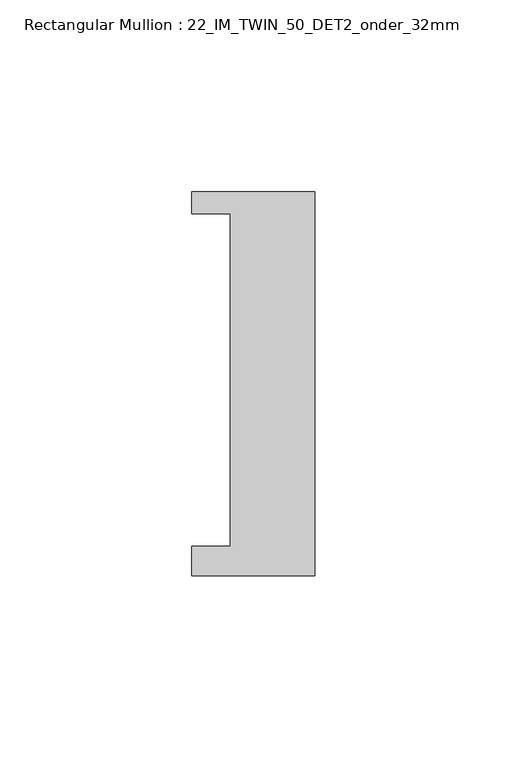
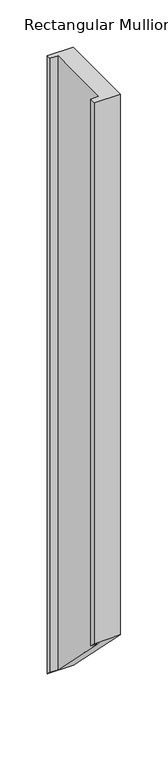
"""IFC4 building model written with IfcOpenShell, lengths in millimetres: member geometry, Rectangular Mullion : 22_IM_TWIN_50_DET2_onder_32mm."""

from ifc_helpers import new_model, si_unit, origin, place, context, project, spatial, faceted_brep, source, transform, mapped, element, save


def rectangular_mullion_22_im_twin_50_det2_onder_32mm_dabcd18b(model_context):
    return source(origin(), model_context, "Body", "Brep", [
        faceted_brep([(-32.0, 50.0, 0.0), (-32.0, 44.3, 0.0), (-22.0, 44.3, 0.0), (-22.0, -42.3, 0.0), (-32.0, -42.3, 0.0), (-32.0, -50.0, 0.0), (0.0, -50.0, 0.0), (0.0, 50.0, 0.0), (-32.0, 50.0, -799.9903134), (-32.0, 44.3, -794.2903134), (-22.0, 44.3, -794.2903134), (-22.0, -42.3, -707.6903134), (-32.0, -42.3, -707.6903134), (-32.0, -50.0, -699.9903134), (0.0, -50.0, -699.9903134), (0.0, 50.0, -799.9903134)], [[[0, 1, 2, 3, 4, 5, 6, 7]], [[1, 0, 8, 9]], [[2, 1, 9, 10]], [[3, 2, 10, 11]], [[4, 3, 11, 12]], [[5, 4, 12, 13]], [[6, 5, 13, 14]], [[7, 6, 14, 15]], [[0, 7, 15, 8]], [[8, 15, 14, 13, 12, 11, 10, 9]]]),
    ])


if __name__ == "__main__":
    model = new_model("IFC4")
    model_context = context("Model", 3, world=origin())
    ifc_project = project(units=[si_unit("LENGTHUNIT", "METRE", prefix="MILLI")], contexts=[model_context])
    site = spatial("IfcSite", under=ifc_project)
    building = spatial("IfcBuilding", under=site)
    placement = place(None, origin())
    rectangular_mullion_22_im_twin_50_det2_onder_32mm_shape = rectangular_mullion_22_im_twin_50_det2_onder_32mm_dabcd18b(model_context)
    element("IfcMember", 1, ObjectType="Rectangular Mullion : 22_IM_TWIN_50_DET2_onder_32mm", at=placement, inside=building, context=model_context, shape_type="MappedRepresentation", body=[
        mapped(rectangular_mullion_22_im_twin_50_det2_onder_32mm_shape, transform((0.0, 0.0, 0.0), x_axis=(1.0, 0.0, 0.0), y_axis=(0.0, 1.0, 0.0), z_axis=(0.0, 0.0, 1.0))),
    ])
    save(model, "model.ifc")
